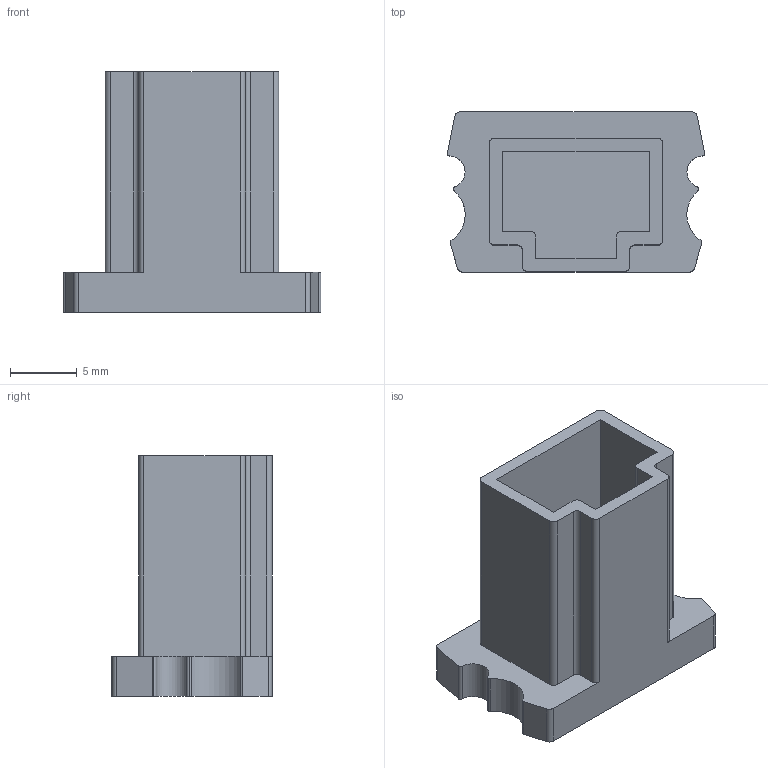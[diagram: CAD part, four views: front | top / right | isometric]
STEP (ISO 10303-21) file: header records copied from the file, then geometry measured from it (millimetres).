
FILE_DESCRIPTION (( 'STEP AP214' ), '1' );
FILE_NAME ('FGEC 12x20.step', '2017-04-05T07:37:02', ( '' ), ( '' ), 'SwSTEP 2.0', 'SolidWorks 2015', '' );
FILE_SCHEMA (( 'AUTOMOTIVE_DESIGN' ));
Length unit declared in the file: millimetre
Products named in the file (1): FGEC 12x20
Bounding box: 19.28 x 12 x 18 mm (x, y, z)
Volume: 1035.2 mm3; surface area: 2096.5 mm2
Topology: 1 solids, 1 shells, 65 faces, 186 edges, 124 vertices
Faces by surface type: cylinder 34, plane 31
Entity records: 2182 total; most frequent: DIRECTION 386, CARTESIAN_POINT 376, ORIENTED_EDGE 372, EDGE_CURVE 186, AXIS2_PLACEMENT_3D 134, VERTEX_POINT 124, VECTOR 118, LINE 118
